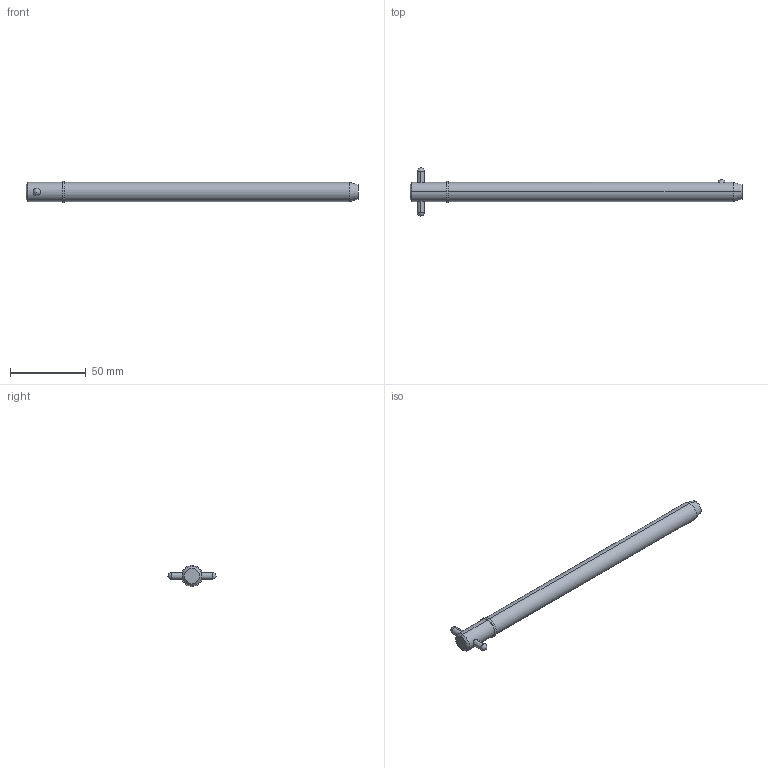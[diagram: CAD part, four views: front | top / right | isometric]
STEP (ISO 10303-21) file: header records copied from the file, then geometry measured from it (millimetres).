
FILE_DESCRIPTION (( 'STEP AP203' ), '1' );
FILE_NAME ('33018.W5070.step', '2024-11-19T17:16:07', ( '' ), ( '' ), 'SwSTEP 2.0', 'SolidWorks 2019', '' );
FILE_SCHEMA (( 'CONFIG_CONTROL_DESIGN' ));
Length unit declared in the file: millimetre
Products named in the file (3): Part1_33018.W5070; Part2_33018.W5070; 33018.W5070
Assembly tree (2 placements, depth 2):
  33018.W5070
    Part1_33018.W5070
    Part2_33018.W5070
Bounding box: 219.38 x 31.75 x 13.97 mm (x, y, z)
Volume: 27957.1 mm3; surface area: 9589.1 mm2
Topology: 2 solids, 2 shells, 22 faces, 47 edges, 30 vertices
Faces by surface type: cylinder 10, sphere 4, cone 4, plane 4
Entity records: 1043 total; most frequent: CARTESIAN_POINT 286, DIRECTION 110, ORIENTED_EDGE 82, AXIS2_PLACEMENT_3D 48, EDGE_CURVE 41, EDGE_LOOP 27, PERSON_AND_ORGANIZATION 26, VERTEX_POINT 26
